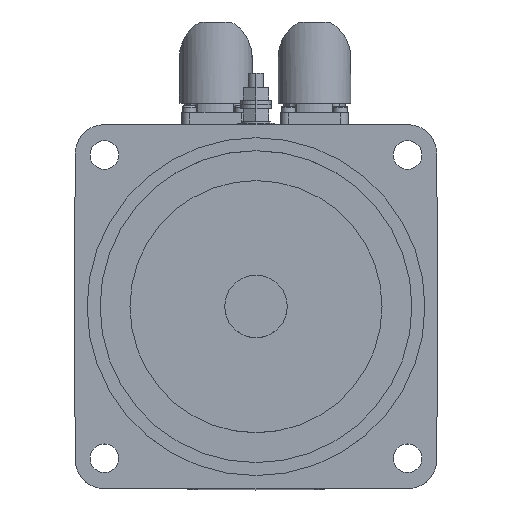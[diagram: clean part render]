
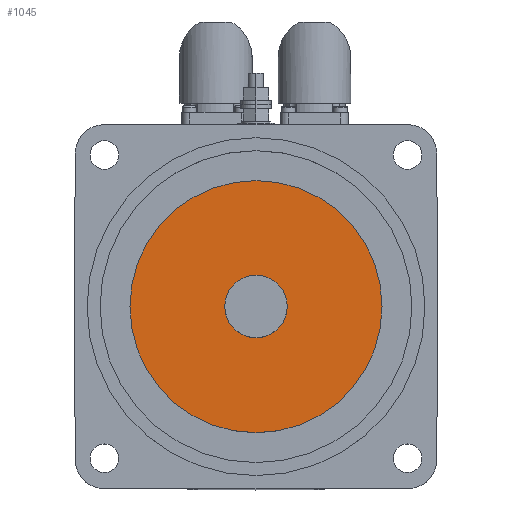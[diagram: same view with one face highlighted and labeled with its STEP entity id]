
A CAD part, top view. The second image highlights one B-rep face of the part: STEP entity #1045.
In plain terms, the highlighted planar face has unit normal (0, 0, 1).
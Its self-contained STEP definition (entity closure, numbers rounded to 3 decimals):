
#1045 = ADVANCED_FACE ( 'NONE', ( #5620, #5615 ), #10482, .F. ) ;
#1192 = EDGE_CURVE ( 'NONE', #3855, #3853, #5970, .T. ) ;
#1210 = EDGE_CURVE ( 'NONE', #3830, #3838, #6021, .T. ) ;
#1212 = EDGE_CURVE ( 'NONE', #3853, #3855, #6027, .T. ) ;
#1375 = EDGE_CURVE ( 'NONE', #3838, #3830, #6301, .T. ) ;
#3599 = AXIS2_PLACEMENT_3D ( 'NONE', #10467, #10483, #10484 ) ;
#3715 = AXIS2_PLACEMENT_3D ( 'NONE', #14059, #14060, #14061 ) ;
#3725 = AXIS2_PLACEMENT_3D ( 'NONE', #14109, #14115, #14116 ) ;
#3728 = AXIS2_PLACEMENT_3D ( 'NONE', #14119, #14120, #14121 ) ;
#3830 = VERTEX_POINT ( 'NONE', #8494 ) ;
#3838 = VERTEX_POINT ( 'NONE', #8496 ) ;
#3852 = AXIS2_PLACEMENT_3D ( 'NONE', #9963, #9971, #9972 ) ;
#3853 = VERTEX_POINT ( 'NONE', #8505 ) ;
#3855 = VERTEX_POINT ( 'NONE', #8506 ) ;
#4568 = ORIENTED_EDGE ( 'NONE', *, *, #1375, .F. ) ;
#4569 = ORIENTED_EDGE ( 'NONE', *, *, #1210, .F. ) ;
#4570 = ORIENTED_EDGE ( 'NONE', *, *, #1212, .F. ) ;
#4571 = ORIENTED_EDGE ( 'NONE', *, *, #1192, .F. ) ;
#5615 = FACE_BOUND ( 'NONE', #11758, .T. ) ;
#5620 = FACE_OUTER_BOUND ( 'NONE', #11753, .T. ) ;
#5970 = CIRCLE ( 'NONE', #3715, 12. ) ;
#6021 = CIRCLE ( 'NONE', #3725, 48.5 ) ;
#6027 = CIRCLE ( 'NONE', #3728, 12. ) ;
#6301 = CIRCLE ( 'NONE', #3852, 48.5 ) ;
#8494 = CARTESIAN_POINT ( 'NONE',  ( 48.5, 0., -4.5 ) ) ;
#8496 = CARTESIAN_POINT ( 'NONE',  ( -48.5, 0., -4.5 ) ) ;
#8505 = CARTESIAN_POINT ( 'NONE',  ( -12., 0., -4.5 ) ) ;
#8506 = CARTESIAN_POINT ( 'NONE',  ( 12., 0., -4.5 ) ) ;
#9963 = CARTESIAN_POINT ( 'NONE',  ( 0., 0., -4.5 ) ) ;
#9971 = DIRECTION ( 'NONE',  ( 0., 0., -1. ) ) ;
#9972 = DIRECTION ( 'NONE',  ( -1., 0., 0. ) ) ;
#10467 = CARTESIAN_POINT ( 'NONE',  ( 0., 48.5, -4.5 ) ) ;
#10482 = PLANE ( 'NONE',  #3599 ) ;
#10483 = DIRECTION ( 'NONE',  ( 0., 0., -1. ) ) ;
#10484 = DIRECTION ( 'NONE',  ( -1., 0., 0. ) ) ;
#11753 = EDGE_LOOP ( 'NONE', ( #4568, #4569 ) ) ;
#11758 = EDGE_LOOP ( 'NONE', ( #4570, #4571 ) ) ;
#14059 = CARTESIAN_POINT ( 'NONE',  ( 0., 0., -4.5 ) ) ;
#14060 = DIRECTION ( 'NONE',  ( 0., 0., 1. ) ) ;
#14061 = DIRECTION ( 'NONE',  ( -1., 0., 0. ) ) ;
#14109 = CARTESIAN_POINT ( 'NONE',  ( 0., 0., -4.5 ) ) ;
#14115 = DIRECTION ( 'NONE',  ( 0., 0., -1. ) ) ;
#14116 = DIRECTION ( 'NONE',  ( -1., 0., 0. ) ) ;
#14119 = CARTESIAN_POINT ( 'NONE',  ( 0., 0., -4.5 ) ) ;
#14120 = DIRECTION ( 'NONE',  ( 0., 0., 1. ) ) ;
#14121 = DIRECTION ( 'NONE',  ( -1., 0., 0. ) ) ;
